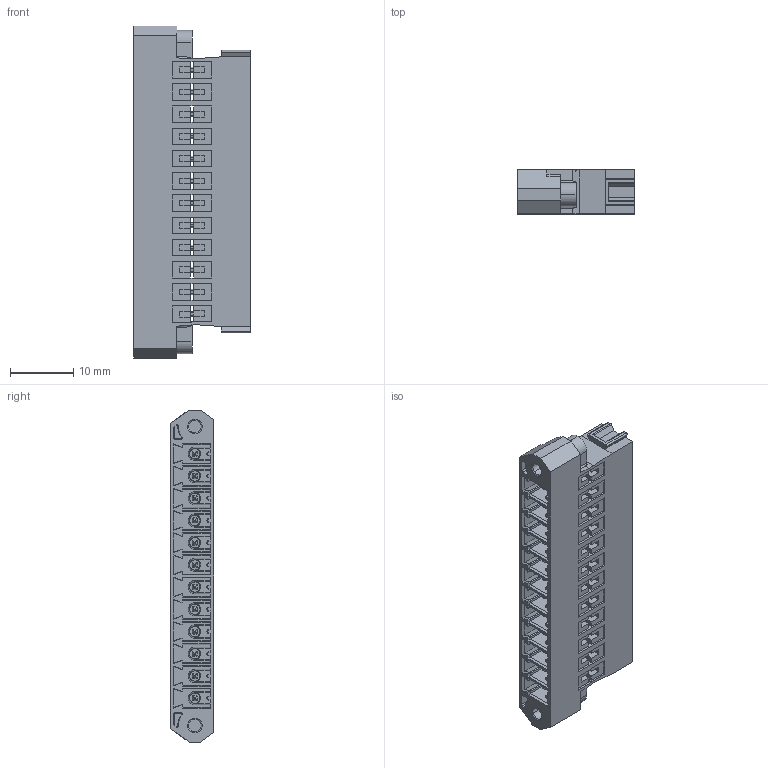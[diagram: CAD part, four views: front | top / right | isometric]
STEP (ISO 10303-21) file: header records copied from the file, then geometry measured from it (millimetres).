
FILE_DESCRIPTION (( 'STEP AP203' ), '1' );
FILE_NAME ('110-M-345-12.STEP', '2019-01-25T01:06:24', ( '' ), ( '' ), 'SwSTEP 2.0', 'SolidWorks 2016', '' );
FILE_SCHEMA (( 'CONFIG_CONTROL_DESIGN' ));
Length unit declared in the file: millimetre
Products named in the file (1): 110-M-345-12
Bounding box: 18.4 x 6.9 x 52.3 mm (x, y, z)
Volume: 2622.2 mm3; surface area: 7781.4 mm2
Topology: 1 solids, 3 shells, 1995 faces, 5356 edges, 3409 vertices
Faces by surface type: plane 1273, cylinder 558, cone 148, torus 16
Entity records: 64309 total; most frequent: CARTESIAN_POINT 15889, ORIENTED_EDGE 10712, DIRECTION 8954, EDGE_CURVE 5356, VECTOR 3838, LINE 3838, VERTEX_POINT 3409, AXIS2_PLACEMENT_3D 2558
